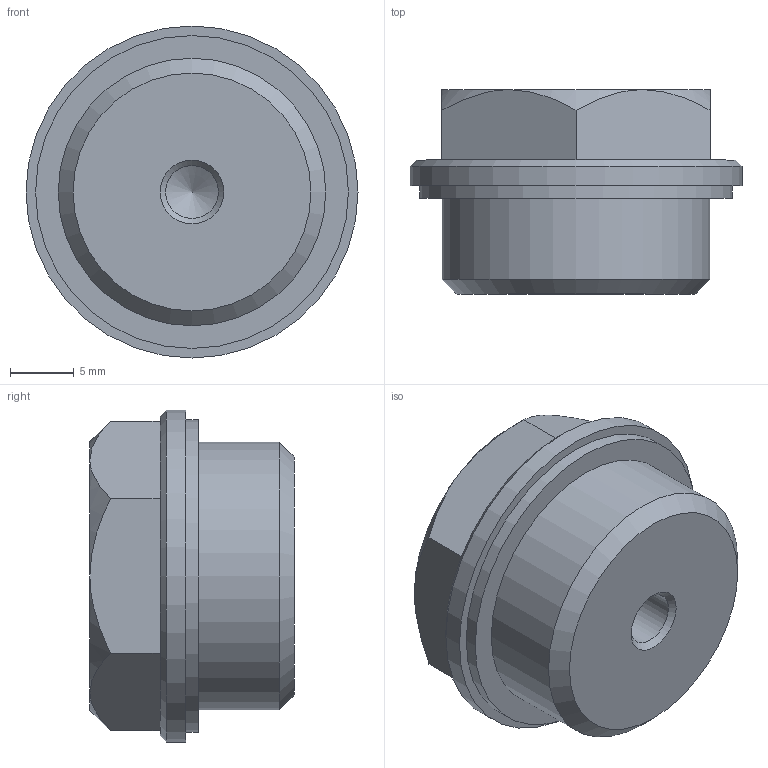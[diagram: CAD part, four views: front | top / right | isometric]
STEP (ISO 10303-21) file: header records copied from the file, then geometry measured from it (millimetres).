
FILE_DESCRIPTION( ( 'STEP AP203' ), '1' );
FILE_NAME( 'C:/Temp/Ganter_Step_05_03_2020/data/3_5/gn742/gn742_1/Threaded plug GN 742-26-G1_2-OS-1.stp', '2020-03-12T13:39:12', ( 'License CC BY-ND 4.0' ), ( 'CADENAS' ), ' ', 'PARTsolutions', ' ' );
FILE_SCHEMA( ( 'CONFIG_CONTROL_DESIGN' ) );
Length unit declared in the file: millimetre
Products named in the file (1): _Threaded plug GN 742-26-G1/2-OS-1
Bounding box: 26 x 16 x 26 mm (x, y, z)
Volume: 5975.7 mm3; surface area: 2260.8 mm2
Topology: 1 solids, 1 shells, 25 faces, 50 edges, 30 vertices
Faces by surface type: plane 11, cone 10, cylinder 4
Full cylindrical faces by diameter (mm): 4.134 x1, 20.955 x1, 24.5 x1, 26 x1
Entity records: 700 total; most frequent: CARTESIAN_POINT 181, DIRECTION 98, ORIENTED_EDGE 82, AXIS2_PLACEMENT_3D 43, EDGE_CURVE 41, EDGE_LOOP 36, VERTEX_POINT 30, FACE_OUTER_BOUND 29
